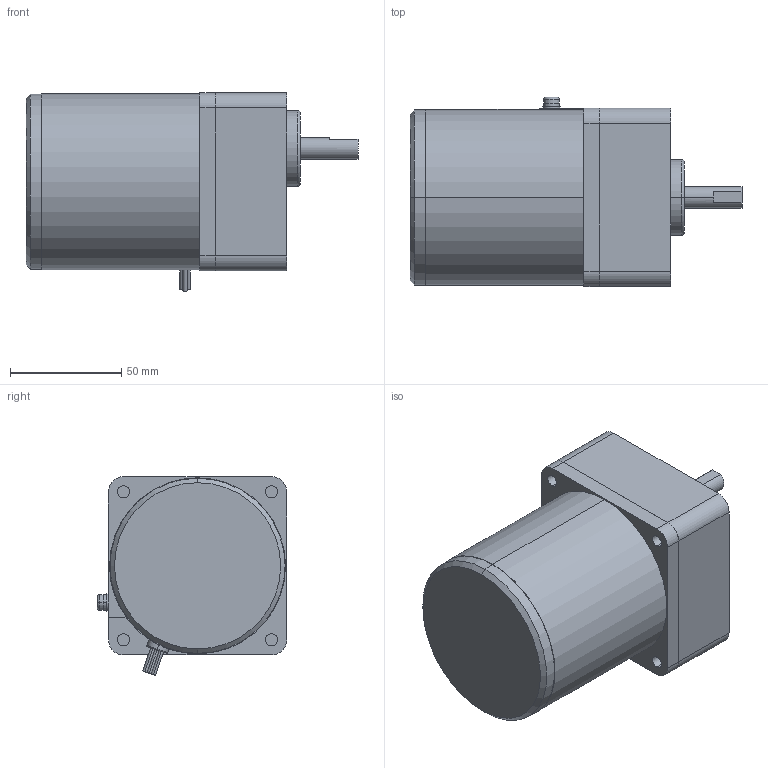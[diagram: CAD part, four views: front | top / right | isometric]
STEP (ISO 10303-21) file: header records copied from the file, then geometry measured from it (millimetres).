
FILE_DESCRIPTION(('starvars output'),'2;1');
FILE_NAME('4RK25GN-CW2E _ 4GN18SA.stp','13:43:06 2015/05/11',( 'Thomas Industrial Network Germany GmbH'),( 'Thomas Industrial Network Germany GmbH'),'unknown preprocess','ACIS' ,'unknown authorization');
FILE_SCHEMA(('AUTOMOTIVE_DESIGN_CC2 {UNKNOWN IMPLEMENTATION LEVEL}'));
Length unit declared in the file: millimetre
Products named in the file (1): PRODUCT_ID_1680
Bounding box: 149 x 85 x 89.14 mm (x, y, z)
Volume: 628384 mm3; surface area: 49132.7 mm2
Topology: 1 solids, 1 shells, 104 faces, 233 edges, 153 vertices
Faces by surface type: cylinder 54, plane 42, torus 6, cone 2
Entity records: 3557 total; most frequent: CARTESIAN_POINT 484, ORIENTED_EDGE 466, DIRECTION 417, EDGE_CURVE 233, AXIS2_PLACEMENT_3D 156, VERTEX_POINT 153, EDGE_LOOP 126, FACE_BOUND 126
